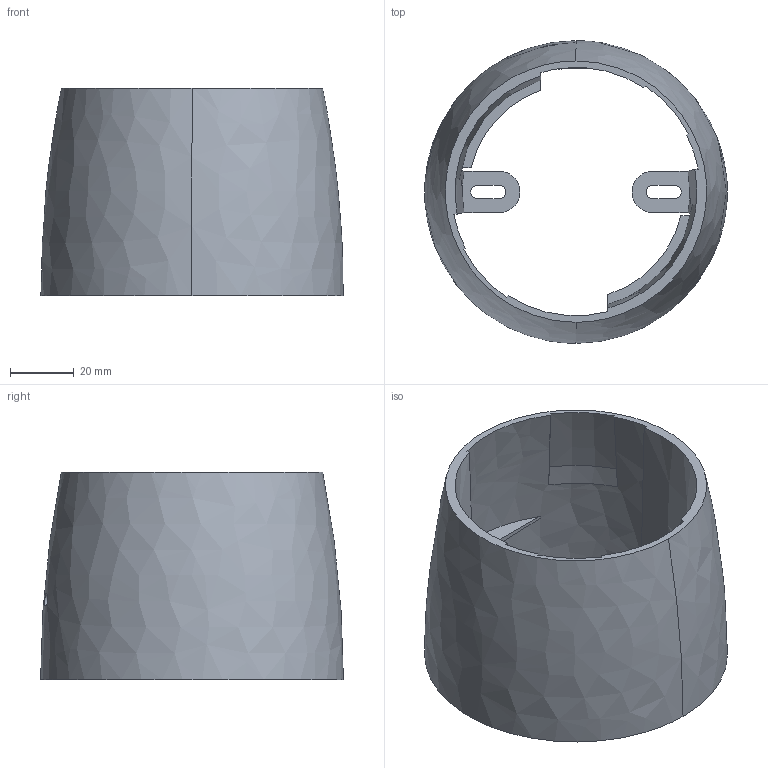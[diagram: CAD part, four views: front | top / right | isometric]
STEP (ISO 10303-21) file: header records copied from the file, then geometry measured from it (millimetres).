
FILE_DESCRIPTION((''),'2;1');
FILE_NAME('15013109Z_DMEC_D95X65_HOUSING','2019-06-07T13:50:59',('juergen.hrach'),(''),'CREO PARAMETRIC BY PTC INC, 2017380','CREO PARAMETRIC BY PTC INC, 2017380','');
FILE_SCHEMA(('AUTOMOTIVE_DESIGN { 1 0 10303 214 1 1 1 1 }'));
Length unit declared in the file: millimetre
Products named in the file (1): 15013109Z_DMEC_D95X65_HOUSING
Bounding box: 94.82 x 95 x 65 mm (x, y, z)
Volume: 46570.4 mm3; surface area: 52040.6 mm2
Topology: 1 solids, 1 shells, 110 faces, 323 edges, 217 vertices
Faces by surface type: plane 68, cylinder 15, cone 14, bspline 13
Entity records: 6035 total; most frequent: CARTESIAN_POINT 1980, ORIENTED_EDGE 646, DIRECTION 429, PRESENTATION_STYLE_ASSIGNMENT 324, STYLED_ITEM 324, CURVE_STYLE 323, EDGE_CURVE 323, VERTEX_POINT 217
